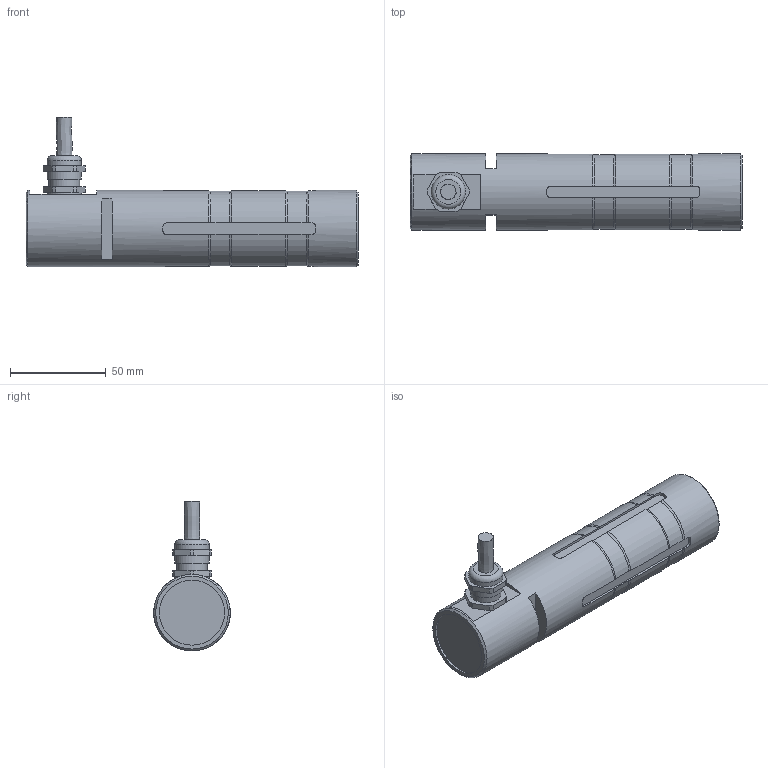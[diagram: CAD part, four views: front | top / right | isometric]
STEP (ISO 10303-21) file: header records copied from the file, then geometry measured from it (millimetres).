
FILE_DESCRIPTION(/* description */ ('Alibre Inc.'),/* implementation_level */ '2;1');
FILE_NAME(/* name */ 'export0',/* time_stamp */ '2015-08-10T14:05:59+02:00',/* author */ (''),/* organization */ (''),/* preprocessor_version */ 'ST-DEVELOPER v14',/* originating_system */ 'Alibre',/* authorisation */ '');
FILE_SCHEMA (('CONFIG_CONTROL_DESIGN'));
Length unit declared in the file: centimetre
Products named in the file (6): ID_1; ID_2; ID_3
Bounding box: 173.5 x 40 x 78.31 mm (x, y, z)
Volume: 214326.4 mm3; surface area: 30466.7 mm2
Topology: 4 solids, 4 shells, 172 faces, 453 edges, 300 vertices
Faces by surface type: plane 92, cylinder 57, torus 18, cone 4, bspline 1
Full cylindrical faces by diameter (mm): 6.647 x1, 8 x1, 10 x1, 14.376 x1, 16 x2, 18 x2, 34 x1, 40 x2
Entity records: 6203 total; most frequent: CARTESIAN_POINT 1818, ORIENTED_EDGE 862, DIRECTION 616, EDGE_CURVE 431, VERTEX_POINT 297, VECTOR 255, LINE 255, AXIS2_PLACEMENT_3D 226
